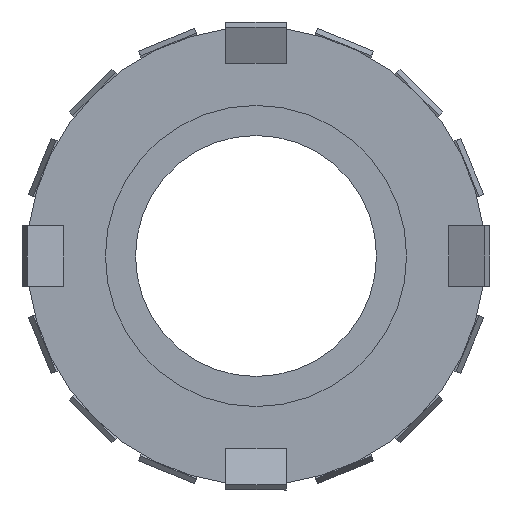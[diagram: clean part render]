
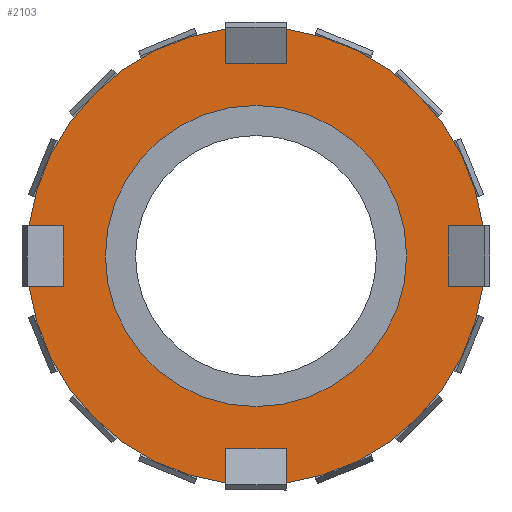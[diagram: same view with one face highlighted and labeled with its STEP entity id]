
A CAD part, left-side view. The second image highlights one B-rep face of the part: STEP entity #2103.
In plain terms, the highlighted planar face has unit normal (-1, 0, 0).
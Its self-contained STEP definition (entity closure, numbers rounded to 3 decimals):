
#1652 = VERTEX_POINT ( 'NONE', #5303 ) ;
#1772 = VERTEX_POINT ( 'NONE', #5543 ) ;
#1795 = VERTEX_POINT ( 'NONE', #5662 ) ;
#1796 = VERTEX_POINT ( 'NONE', #5661 ) ;
#1802 = VERTEX_POINT ( 'NONE', #5652 ) ;
#1965 = EDGE_CURVE ( 'NONE', #1966, #2127, #5774, .T. ) ;
#1966 = VERTEX_POINT ( 'NONE', #5770 ) ;
#1967 = ORIENTED_EDGE ( 'NONE', *, *, #1968, .F. ) ;
#1968 = EDGE_CURVE ( 'NONE', #1989, #1966, #5769, .T. ) ;
#1969 = ORIENTED_EDGE ( 'NONE', *, *, #2201, .T. ) ;
#1970 = ORIENTED_EDGE ( 'NONE', *, *, #1971, .F. ) ;
#1971 = EDGE_CURVE ( 'NONE', #1972, #1988, #5765, .T. ) ;
#1972 = VERTEX_POINT ( 'NONE', #5761 ) ;
#1973 = ORIENTED_EDGE ( 'NONE', *, *, #1974, .F. ) ;
#1974 = EDGE_CURVE ( 'NONE', #1975, #1972, #5852, .T. ) ;
#1975 = VERTEX_POINT ( 'NONE', #5848 ) ;
#1976 = ORIENTED_EDGE ( 'NONE', *, *, #1984, .F. ) ;
#1984 = EDGE_CURVE ( 'NONE', #2100, #1975, #5841, .T. ) ;
#1985 = ORIENTED_EDGE ( 'NONE', *, *, #2099, .T. ) ;
#1986 = ORIENTED_EDGE ( 'NONE', *, *, #1987, .F. ) ;
#1987 = EDGE_CURVE ( 'NONE', #2111, #2097, #5799, .T. ) ;
#1988 = VERTEX_POINT ( 'NONE', #5795 ) ;
#1989 = VERTEX_POINT ( 'NONE', #5794 ) ;
#1992 = EDGE_CURVE ( 'NONE', #1652, #1802, #5937, .T. ) ;
#2056 = EDGE_CURVE ( 'NONE', #1795, #1796, #5960, .T. ) ;
#2097 = VERTEX_POINT ( 'NONE', #6123 ) ;
#2099 = EDGE_CURVE ( 'NONE', #2100, #2097, #6122, .T. ) ;
#2100 = VERTEX_POINT ( 'NONE', #6117 ) ;
#2103 = ADVANCED_FACE ( 'NONE', ( #6112, #6111 ), #6110, .F. ) ;
#2104 = EDGE_LOOP ( 'NONE', ( #2105, #2106 ) ) ;
#2105 = ORIENTED_EDGE ( 'NONE', *, *, #2170, .F. ) ;
#2106 = ORIENTED_EDGE ( 'NONE', *, *, #1992, .F. ) ;
#2107 = EDGE_LOOP ( 'NONE', ( #2108, #2112, #2114, #2115, #2120, #2122, #2124, #2125, #2128, #1967, #1969, #1970, #1973, #1976, #1985, #1986 ) ) ;
#2108 = ORIENTED_EDGE ( 'NONE', *, *, #2109, .F. ) ;
#2109 = EDGE_CURVE ( 'NONE', #2110, #2111, #6105, .T. ) ;
#2110 = VERTEX_POINT ( 'NONE', #6101 ) ;
#2111 = VERTEX_POINT ( 'NONE', #6100 ) ;
#2112 = ORIENTED_EDGE ( 'NONE', *, *, #2113, .F. ) ;
#2113 = EDGE_CURVE ( 'NONE', #2242, #2110, #6099, .T. ) ;
#2114 = ORIENTED_EDGE ( 'NONE', *, *, #2244, .T. ) ;
#2115 = ORIENTED_EDGE ( 'NONE', *, *, #2116, .F. ) ;
#2116 = EDGE_CURVE ( 'NONE', #2117, #1772, #6095, .T. ) ;
#2117 = VERTEX_POINT ( 'NONE', #6034 ) ;
#2118 = VERTEX_POINT ( 'NONE', #6033 ) ;
#2120 = ORIENTED_EDGE ( 'NONE', *, *, #2121, .F. ) ;
#2121 = EDGE_CURVE ( 'NONE', #2118, #2117, #6027, .T. ) ;
#2122 = ORIENTED_EDGE ( 'NONE', *, *, #2123, .F. ) ;
#2123 = EDGE_CURVE ( 'NONE', #1795, #2118, #6023, .T. ) ;
#2124 = ORIENTED_EDGE ( 'NONE', *, *, #2056, .T. ) ;
#2125 = ORIENTED_EDGE ( 'NONE', *, *, #2126, .F. ) ;
#2126 = EDGE_CURVE ( 'NONE', #2127, #1796, #6019, .T. ) ;
#2127 = VERTEX_POINT ( 'NONE', #6015 ) ;
#2128 = ORIENTED_EDGE ( 'NONE', *, *, #1965, .F. ) ;
#2170 = EDGE_CURVE ( 'NONE', #1802, #1652, #6287, .T. ) ;
#2201 = EDGE_CURVE ( 'NONE', #1989, #1988, #6234, .T. ) ;
#2242 = VERTEX_POINT ( 'NONE', #6320 ) ;
#2244 = EDGE_CURVE ( 'NONE', #2242, #1772, #6319, .T. ) ;
#5303 = CARTESIAN_POINT ( 'NONE',  ( 5., 0., -12.5 ) ) ;
#5543 = CARTESIAN_POINT ( 'NONE',  ( 5., -18.835, -2.5 ) ) ;
#5652 = CARTESIAN_POINT ( 'NONE',  ( 5., 0., 12.5 ) ) ;
#5661 = CARTESIAN_POINT ( 'NONE',  ( 5., -2.5, 18.835 ) ) ;
#5662 = CARTESIAN_POINT ( 'NONE',  ( 5., -18.835, 2.5 ) ) ;
#5761 = CARTESIAN_POINT ( 'NONE',  ( 5., 16., 2.5 ) ) ;
#5762 = DIRECTION ( 'NONE',  ( 0., 1., 0. ) ) ;
#5763 = VECTOR ( 'NONE', #5762, 1000. ) ;
#5764 = CARTESIAN_POINT ( 'NONE',  ( 5., 18.835, 2.5 ) ) ;
#5765 = LINE ( 'NONE', #5764, #5763 ) ;
#5766 = DIRECTION ( 'NONE',  ( 0., 0., -1. ) ) ;
#5767 = VECTOR ( 'NONE', #5766, 1000. ) ;
#5768 = CARTESIAN_POINT ( 'NONE',  ( 5., 2.5, 18.835 ) ) ;
#5769 = LINE ( 'NONE', #5768, #5767 ) ;
#5770 = CARTESIAN_POINT ( 'NONE',  ( 5., 2.5, 16. ) ) ;
#5771 = DIRECTION ( 'NONE',  ( 0., -1., 0. ) ) ;
#5772 = VECTOR ( 'NONE', #5771, 1000. ) ;
#5773 = CARTESIAN_POINT ( 'NONE',  ( 5., 2.5, 16. ) ) ;
#5774 = LINE ( 'NONE', #5773, #5772 ) ;
#5791 = CARTESIAN_POINT ( 'NONE',  ( 5., 0., 0. ) ) ;
#5794 = CARTESIAN_POINT ( 'NONE',  ( 5., 2.5, 18.835 ) ) ;
#5795 = CARTESIAN_POINT ( 'NONE',  ( 5., 18.835, 2.5 ) ) ;
#5796 = DIRECTION ( 'NONE',  ( 0., 0., -1. ) ) ;
#5797 = VECTOR ( 'NONE', #5796, 1000. ) ;
#5798 = CARTESIAN_POINT ( 'NONE',  ( 5., 2.5, -18.835 ) ) ;
#5799 = LINE ( 'NONE', #5798, #5797 ) ;
#5800 = DIRECTION ( 'NONE',  ( 0., -1., 0. ) ) ;
#5839 = VECTOR ( 'NONE', #5800, 1000. ) ;
#5840 = CARTESIAN_POINT ( 'NONE',  ( 5., 18.835, -2.5 ) ) ;
#5841 = LINE ( 'NONE', #5840, #5839 ) ;
#5848 = CARTESIAN_POINT ( 'NONE',  ( 5., 16., -2.5 ) ) ;
#5849 = DIRECTION ( 'NONE',  ( 0., 0., 1. ) ) ;
#5850 = VECTOR ( 'NONE', #5849, 1000. ) ;
#5851 = CARTESIAN_POINT ( 'NONE',  ( 5., 16., -2.5 ) ) ;
#5852 = LINE ( 'NONE', #5851, #5850 ) ;
#5934 = DIRECTION ( 'NONE',  ( 0., 0., 1. ) ) ;
#5935 = DIRECTION ( 'NONE',  ( -1., 0., 0. ) ) ;
#5936 = AXIS2_PLACEMENT_3D ( 'NONE', #5791, #5935, #5934 ) ;
#5937 = CIRCLE ( 'NONE', #5936, 12.5 ) ;
#5956 = DIRECTION ( 'NONE',  ( 0., 0., 1. ) ) ;
#5957 = DIRECTION ( 'NONE',  ( -1., 0., 0. ) ) ;
#5958 = CARTESIAN_POINT ( 'NONE',  ( 5., 0., 0. ) ) ;
#5959 = AXIS2_PLACEMENT_3D ( 'NONE', #5958, #5957, #5956 ) ;
#5960 = CIRCLE ( 'NONE', #5959, 19. ) ;
#6015 = CARTESIAN_POINT ( 'NONE',  ( 5., -2.5, 16. ) ) ;
#6016 = DIRECTION ( 'NONE',  ( 0., 0., 1. ) ) ;
#6017 = VECTOR ( 'NONE', #6016, 1000. ) ;
#6018 = CARTESIAN_POINT ( 'NONE',  ( 5., -2.5, 18.835 ) ) ;
#6019 = LINE ( 'NONE', #6018, #6017 ) ;
#6020 = DIRECTION ( 'NONE',  ( 0., 1., 0. ) ) ;
#6021 = VECTOR ( 'NONE', #6020, 1000. ) ;
#6022 = CARTESIAN_POINT ( 'NONE',  ( 5., -18.835, 2.5 ) ) ;
#6023 = LINE ( 'NONE', #6022, #6021 ) ;
#6024 = DIRECTION ( 'NONE',  ( 0., 0., -1. ) ) ;
#6025 = VECTOR ( 'NONE', #6024, 1000. ) ;
#6026 = CARTESIAN_POINT ( 'NONE',  ( 5., -16., 2.5 ) ) ;
#6027 = LINE ( 'NONE', #6026, #6025 ) ;
#6033 = CARTESIAN_POINT ( 'NONE',  ( 5., -16., 2.5 ) ) ;
#6034 = CARTESIAN_POINT ( 'NONE',  ( 5., -16., -2.5 ) ) ;
#6035 = DIRECTION ( 'NONE',  ( 0., -1., 0. ) ) ;
#6036 = VECTOR ( 'NONE', #6035, 1000. ) ;
#6037 = CARTESIAN_POINT ( 'NONE',  ( 5., -18.835, -2.5 ) ) ;
#6095 = LINE ( 'NONE', #6037, #6036 ) ;
#6096 = DIRECTION ( 'NONE',  ( 0., 0., 1. ) ) ;
#6097 = VECTOR ( 'NONE', #6096, 1000. ) ;
#6098 = CARTESIAN_POINT ( 'NONE',  ( 5., -2.5, -18.835 ) ) ;
#6099 = LINE ( 'NONE', #6098, #6097 ) ;
#6100 = CARTESIAN_POINT ( 'NONE',  ( 5., 2.5, -16. ) ) ;
#6101 = CARTESIAN_POINT ( 'NONE',  ( 5., -2.5, -16. ) ) ;
#6102 = DIRECTION ( 'NONE',  ( 0., 1., 0. ) ) ;
#6103 = VECTOR ( 'NONE', #6102, 1000. ) ;
#6104 = CARTESIAN_POINT ( 'NONE',  ( 5., -2.5, -16. ) ) ;
#6105 = LINE ( 'NONE', #6104, #6103 ) ;
#6106 = DIRECTION ( 'NONE',  ( 0., 0., -1. ) ) ;
#6107 = DIRECTION ( 'NONE',  ( 1., 0., 0. ) ) ;
#6108 = CARTESIAN_POINT ( 'NONE',  ( 5., 19., 0. ) ) ;
#6109 = AXIS2_PLACEMENT_3D ( 'NONE', #6108, #6107, #6106 ) ;
#6110 = PLANE ( 'NONE',  #6109 ) ;
#6111 = FACE_OUTER_BOUND ( 'NONE', #2107, .T. ) ;
#6112 = FACE_BOUND ( 'NONE', #2104, .T. ) ;
#6117 = CARTESIAN_POINT ( 'NONE',  ( 5., 18.835, -2.5 ) ) ;
#6118 = DIRECTION ( 'NONE',  ( 0., 0., 1. ) ) ;
#6119 = DIRECTION ( 'NONE',  ( -1., 0., 0. ) ) ;
#6120 = CARTESIAN_POINT ( 'NONE',  ( 5., 0., 0. ) ) ;
#6121 = AXIS2_PLACEMENT_3D ( 'NONE', #6120, #6119, #6118 ) ;
#6122 = CIRCLE ( 'NONE', #6121, 19. ) ;
#6123 = CARTESIAN_POINT ( 'NONE',  ( 5., 2.5, -18.835 ) ) ;
#6203 = DIRECTION ( 'NONE',  ( 0., 0., 1. ) ) ;
#6204 = DIRECTION ( 'NONE',  ( -1., 0., 0. ) ) ;
#6205 = CARTESIAN_POINT ( 'NONE',  ( 5., 0., 0. ) ) ;
#6231 = DIRECTION ( 'NONE',  ( 0., 0., 1. ) ) ;
#6232 = DIRECTION ( 'NONE',  ( -1., 0., 0. ) ) ;
#6233 = AXIS2_PLACEMENT_3D ( 'NONE', #6239, #6232, #6231 ) ;
#6234 = CIRCLE ( 'NONE', #6233, 19. ) ;
#6239 = CARTESIAN_POINT ( 'NONE',  ( 5., 0., 0. ) ) ;
#6271 = DIRECTION ( 'NONE',  ( 0., 0., 1. ) ) ;
#6283 = DIRECTION ( 'NONE',  ( -1., 0., 0. ) ) ;
#6284 = CARTESIAN_POINT ( 'NONE',  ( 5., 0., 0. ) ) ;
#6285 = AXIS2_PLACEMENT_3D ( 'NONE', #6284, #6283, #6271 ) ;
#6287 = CIRCLE ( 'NONE', #6285, 12.5 ) ;
#6318 = AXIS2_PLACEMENT_3D ( 'NONE', #6205, #6204, #6203 ) ;
#6319 = CIRCLE ( 'NONE', #6318, 19. ) ;
#6320 = CARTESIAN_POINT ( 'NONE',  ( 5., -2.5, -18.835 ) ) ;
